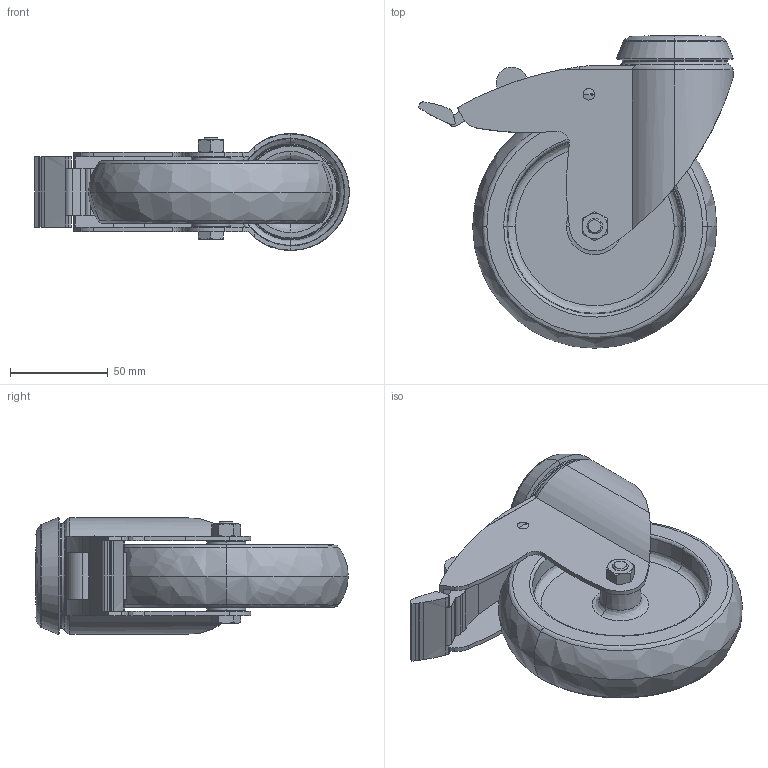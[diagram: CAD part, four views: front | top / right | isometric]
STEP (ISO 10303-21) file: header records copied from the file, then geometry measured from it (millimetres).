
FILE_DESCRIPTION (( 'STEP AP203' ), '1' );
FILE_NAME ('510223_Lenkrolle Ø125 mit Rückenloch Ø11 kpl. feststellbar.step', '2022-08-05T12:35:30', ( '' ), ( '' ), 'SwSTEP 2.0', 'SolidWorks 2021', '' );
FILE_SCHEMA (( 'CONFIG_CONTROL_DESIGN' ));
Length unit declared in the file: millimetre
Products named in the file (1): 510223_Lenkrolle Ø125 mit Rückenloch Ø11 kpl. feststellbar
Bounding box: 161.22 x 160 x 59.99 mm (x, y, z)
Volume: 318347.3 mm3; surface area: 103493.6 mm2
Topology: 2 solids, 2 shells, 261 faces, 668 edges, 422 vertices
Faces by surface type: plane 85, cylinder 74, bspline 58, cone 44
Entity records: 11175 total; most frequent: CARTESIAN_POINT 4936, ORIENTED_EDGE 1328, DIRECTION 1275, EDGE_CURVE 664, AXIS2_PLACEMENT_3D 503, VERTEX_POINT 422, CIRCLE 299, EDGE_LOOP 288
